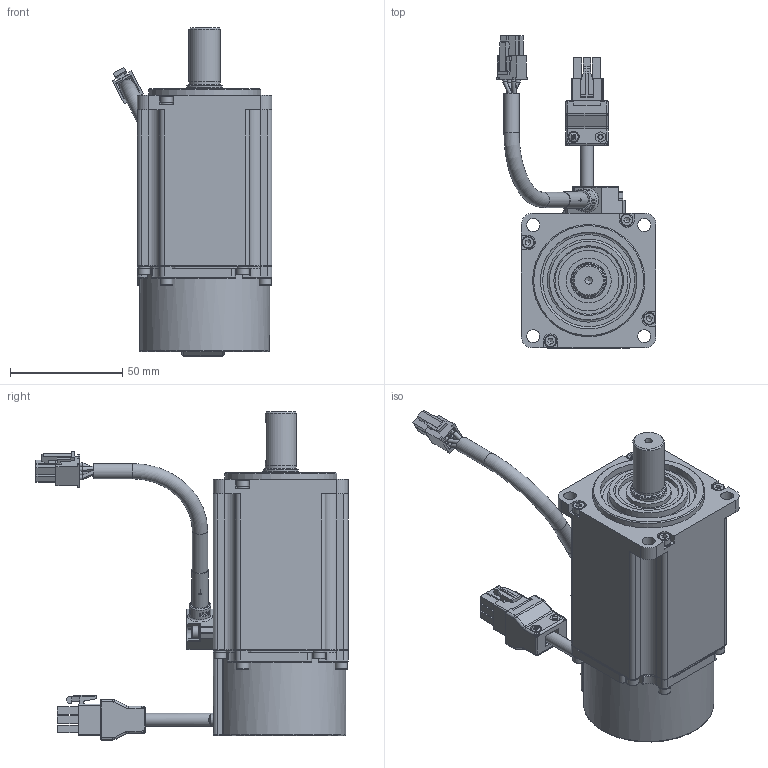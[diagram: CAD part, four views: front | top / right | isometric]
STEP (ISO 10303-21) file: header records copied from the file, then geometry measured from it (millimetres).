
FILE_DESCRIPTION(/* description */ (''),/* implementation_level */ '2;1');
FILE_NAME(/* name */ 'C:\Users\11755\Desktop\SME(磁編)\SME(磁編)_馬達外型圖(客戶版)\3D-STP\SME-L040(磁編).stp',/* time_stamp */ '2021-08-02T10:11:50+08:00',/* author */ ('11755'),/* organization */ (''),/* preprocessor_version */ 'ST-DEVELOPER v17',/* originating_system */ 'Autodesk Inventor 2019',/* authorisation */ '');
FILE_SCHEMA (('AUTOMOTIVE_DESIGN { 1 0 10303 214 3 1 1 }'));
Products named in the file (1): SME-L040(磁編)_20201202_Shrinkwrap_1
Bounding box: 71.31 x 139.11 x 146.2 mm (x, y, z)
Volume: 369599.5 mm3; surface area: 52059.5 mm2
Topology: 3 solids, 11 shells, 1457 faces, 4017 edges, 2626 vertices
Faces by surface type: plane 863, cylinder 317, bspline 88, cone 84, torus 69, sphere 36
Full cylindrical faces by diameter (mm): 1.2 x4, 1.5 x4, 1.6 x4, 2 x4, 2.459 x2, 2.6 x9, 3.3 x1, 5 x2, 5.32 x14, 5.5 x14, 5.8 x5, 6.1 x1, 6.8 x2, 7.2 x1, 9.6 x1, 13.8 x1, 14 x1, 15.8 x1, 16 x1, 20 x1, 27 x1, 35 x1, 43 x1, 50 x1
Entity records: 57194 total; most frequent: CARTESIAN_POINT 18934, ORIENTED_EDGE 7956, DIRECTION 7423, EDGE_CURVE 3979, VERTEX_POINT 2623, AXIS2_PLACEMENT_3D 2541, LINE 2341, VECTOR 2341
